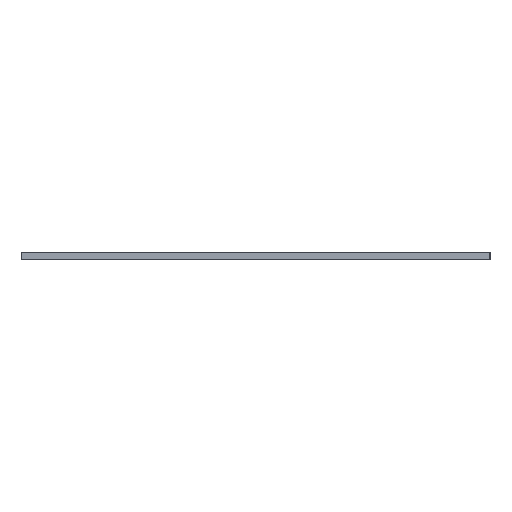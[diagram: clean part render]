
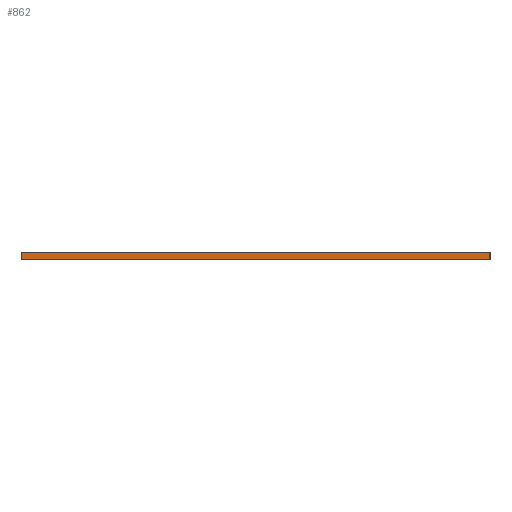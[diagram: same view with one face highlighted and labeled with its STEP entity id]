
A CAD part, left-side view. The second image highlights one B-rep face of the part: STEP entity #862.
In plain terms, the highlighted free-form (B-spline) face has degree [1, 1] with [2, 2] control points.
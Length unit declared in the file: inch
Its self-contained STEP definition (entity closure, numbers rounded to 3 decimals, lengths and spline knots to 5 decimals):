
#780=CARTESIAN_POINT('V3',(0.0,0.0,0.105));
#781=VERTEX_POINT('V3',#780);
#782=CARTESIAN_POINT('V4',(0.0,6.96854,0.105)
   );
#783=VERTEX_POINT('V4',#782);
#784=CARTESIAN_POINT('E3',(0.0,0.0,0.105));
#785=CARTESIAN_POINT('E3',(0.0,6.96854,0.105)
   );
#786=B_SPLINE_CURVE_WITH_KNOTS('E3',1,(#784,#785),.POLYLINE_FORM.,
   .F.,.U.,(2,2),(0.0,66.367),.UNSPECIFIED.);
#787=EDGE_CURVE('E3',#781,#783,#786,.T.);
#835=CARTESIAN_POINT('F1',(0.0,6.96854,0.0));
#836=CARTESIAN_POINT('F1',(0.0,0.0,0.0));
#837=CARTESIAN_POINT('F1',(0.0,6.96854,0.105)
   );
#838=CARTESIAN_POINT('F1',(0.0,0.0,0.105));
#839=B_SPLINE_SURFACE_WITH_KNOTS('F1',1,1,((#835,#837),(#836,#838))
,.PLANE_SURF.,.F.,.F.,.U.,(2,2),(2,2),(0.0,66.367),(
   0.0,1.0),.UNSPECIFIED.);
#840=CARTESIAN_POINT('V1',(0.0,6.96854,0.0));
#841=VERTEX_POINT('V1',#840);
#842=CARTESIAN_POINT('V2',(0.0,0.0,0.0));
#843=VERTEX_POINT('V2',#842);
#844=CARTESIAN_POINT('E1',(0.0,6.96854,0.0));
#845=CARTESIAN_POINT('E1',(0.0,0.0,0.0));
#846=B_SPLINE_CURVE_WITH_KNOTS('E1',1,(#844,#845),.POLYLINE_FORM.,
   .F.,.U.,(2,2),(0.0,66.367),.UNSPECIFIED.);
#847=EDGE_CURVE('E1',#841,#843,#846,.T.);
#848=ORIENTED_EDGE('E1',*,*,#847,.T.);
#849=CARTESIAN_POINT('E2',(0.0,0.0,0.105));
#850=CARTESIAN_POINT('E2',(0.0,0.0,0.0));
#851=QUASI_UNIFORM_CURVE('E2',1,(#849,#850),.POLYLINE_FORM.,.F.,.U.
   );
#852=EDGE_CURVE('E2',#781,#843,#851,.T.);
#853=ORIENTED_EDGE('E2',*,*,#852,.F.);
#854=ORIENTED_EDGE('E3',*,*,#787,.T.);
#855=CARTESIAN_POINT('E4',(0.0,6.96854,0.0));
#856=CARTESIAN_POINT('E4',(0.0,6.96854,0.105)
   );
#857=QUASI_UNIFORM_CURVE('E4',1,(#855,#856),.POLYLINE_FORM.,.F.,.U.
   );
#858=EDGE_CURVE('E4',#841,#783,#857,.T.);
#859=ORIENTED_EDGE('E4',*,*,#858,.F.);
#860=EDGE_LOOP('F1',(#848,#853,#854,#859));
#861=FACE_OUTER_BOUND('F1',#860,.T.);
#862=ADVANCED_FACE('F1',(#861),#839,.T.);
